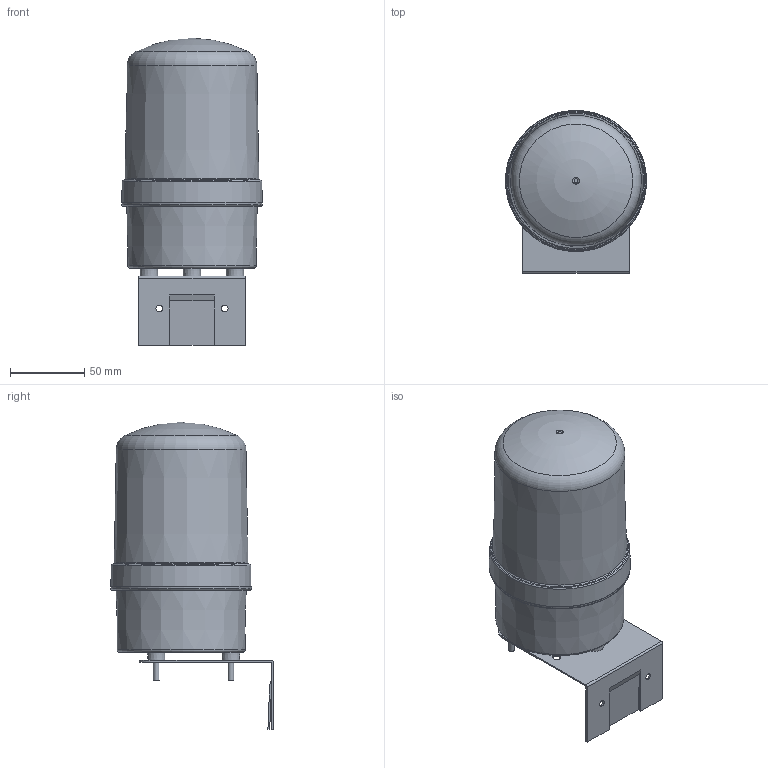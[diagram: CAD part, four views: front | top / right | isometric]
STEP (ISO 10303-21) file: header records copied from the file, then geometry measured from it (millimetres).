
FILE_DESCRIPTION(/* description */ (''),/* implementation_level */ '2;1');
FILE_NAME(/* name */ 'JDS100E-ZJ.stp',/* time_stamp */ '2024-11-13T18:56:50+08:00',/* author */ (''),/* organization */ (''),/* preprocessor_version */ 'ST-DEVELOPER v16.7',/* originating_system */ 'SIEMENS PLM Software NX 12.0',/* authorisation */ '');
FILE_SCHEMA (('AUTOMOTIVE_DESIGN { 1 0 10303 214 3 1 1 1 }'));
Length unit declared in the file: millimetre
Products named in the file (1): JDS100E-ZJ
Bounding box: 94.94 x 109.62 x 206.87 mm (x, y, z)
Volume: 97237.6 mm3; surface area: 146764 mm2
Topology: 5 solids, 6 shells, 681 faces, 1829 edges, 1187 vertices
Faces by surface type: plane 498, cone 75, cylinder 69, sphere 19, torus 18, bspline 2
Full cylindrical faces by diameter (mm): 2.5 x2, 3.8 x6, 4.5 x2, 5.4 x11, 5.9 x2, 10 x4, 10.6 x3, 79 x1
Entity records: 21173 total; most frequent: CARTESIAN_POINT 5005, ORIENTED_EDGE 3370, DIRECTION 3049, EDGE_CURVE 1685, VERTEX_POINT 1166, AXIS2_PLACEMENT_3D 1047, LINE 955, VECTOR 955
